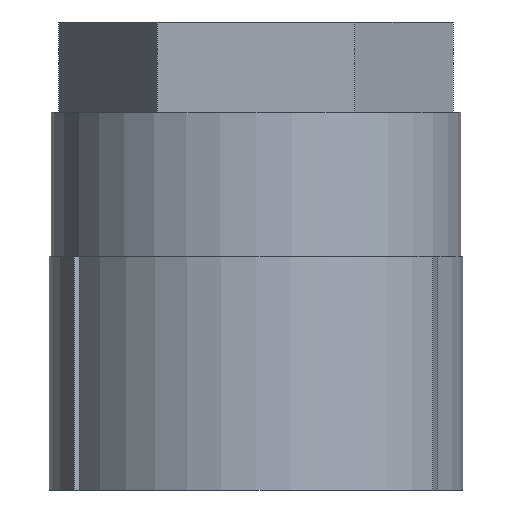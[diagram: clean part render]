
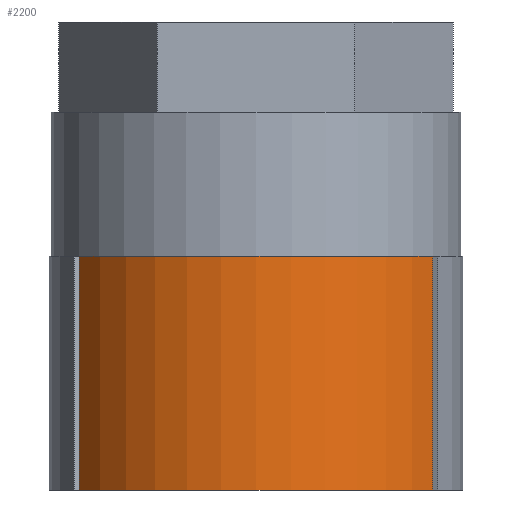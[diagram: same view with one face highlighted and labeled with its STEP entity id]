
A CAD part, front view. The second image highlights one B-rep face of the part: STEP entity #2200.
In plain terms, the highlighted cylindrical face has radius 11.5 mm (diameter 23 mm), a partial arc.
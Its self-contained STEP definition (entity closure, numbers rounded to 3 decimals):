
#68 = ORIENTED_EDGE ( 'NONE', *, *, #201, .F. ) ;
#69 = ORIENTED_EDGE ( 'NONE', *, *, #196, .F. ) ;
#70 = ORIENTED_EDGE ( 'NONE', *, *, #197, .F. ) ;
#71 = ORIENTED_EDGE ( 'NONE', *, *, #199, .T. ) ;
#196 = EDGE_CURVE ( 'NONE', #2296, #2295, #360, .T. ) ;
#197 = EDGE_CURVE ( 'NONE', #2301, #2296, #359, .T. ) ;
#199 = EDGE_CURVE ( 'NONE', #2301, #2299, #365, .T. ) ;
#201 = EDGE_CURVE ( 'NONE', #2295, #2299, #338, .T. ) ;
#297 = AXIS2_PLACEMENT_3D ( 'NONE', #2532, #2535, #2534 ) ;
#338 = LINE ( 'NONE', #400, #366 ) ;
#344 = VECTOR ( 'NONE', #405, 1000. ) ;
#359 = LINE ( 'NONE', #1486, #344 ) ;
#360 = CIRCLE ( 'NONE', #2137, 11.5 ) ;
#365 = CIRCLE ( 'NONE', #2138, 11.5 ) ;
#366 = VECTOR ( 'NONE', #396, 1000. ) ;
#396 = DIRECTION ( 'NONE',  ( 0., 0., -1. ) ) ;
#400 = CARTESIAN_POINT ( 'NONE',  ( 9.81, -6.001, 0. ) ) ;
#401 = DIRECTION ( 'NONE',  ( 1., 0., 0. ) ) ;
#402 = DIRECTION ( 'NONE',  ( 0., 0., 1. ) ) ;
#405 = DIRECTION ( 'NONE',  ( 0., 0., 1. ) ) ;
#406 = CARTESIAN_POINT ( 'NONE',  ( 0., 0., -26. ) ) ;
#407 = DIRECTION ( 'NONE',  ( 1., 0., 0. ) ) ;
#408 = DIRECTION ( 'NONE',  ( 0., 0., 1. ) ) ;
#753 = EDGE_LOOP ( 'NONE', ( #68, #69, #70, #71 ) ) ;
#1139 = FACE_OUTER_BOUND ( 'NONE', #753, .T. ) ;
#1146 = CYLINDRICAL_SURFACE ( 'NONE', #297, 11.5 ) ;
#1468 = CARTESIAN_POINT ( 'NONE',  ( 0., 0., -13. ) ) ;
#1486 = CARTESIAN_POINT ( 'NONE',  ( -9.81, -6.001, 0. ) ) ;
#2137 = AXIS2_PLACEMENT_3D ( 'NONE', #1468, #408, #407 ) ;
#2138 = AXIS2_PLACEMENT_3D ( 'NONE', #406, #402, #401 ) ;
#2200 = ADVANCED_FACE ( 'NONE', ( #1139 ), #1146, .T. ) ;
#2295 = VERTEX_POINT ( 'NONE', #2567 ) ;
#2296 = VERTEX_POINT ( 'NONE', #2564 ) ;
#2299 = VERTEX_POINT ( 'NONE', #2569 ) ;
#2301 = VERTEX_POINT ( 'NONE', #2571 ) ;
#2532 = CARTESIAN_POINT ( 'NONE',  ( 0., 0., 0. ) ) ;
#2534 = DIRECTION ( 'NONE',  ( 1., 0., 0. ) ) ;
#2535 = DIRECTION ( 'NONE',  ( 0., 0., 1. ) ) ;
#2564 = CARTESIAN_POINT ( 'NONE',  ( -9.81, -6.001, -13. ) ) ;
#2567 = CARTESIAN_POINT ( 'NONE',  ( 9.81, -6.001, -13. ) ) ;
#2569 = CARTESIAN_POINT ( 'NONE',  ( 9.81, -6.001, -26. ) ) ;
#2571 = CARTESIAN_POINT ( 'NONE',  ( -9.81, -6.001, -26. ) ) ;
